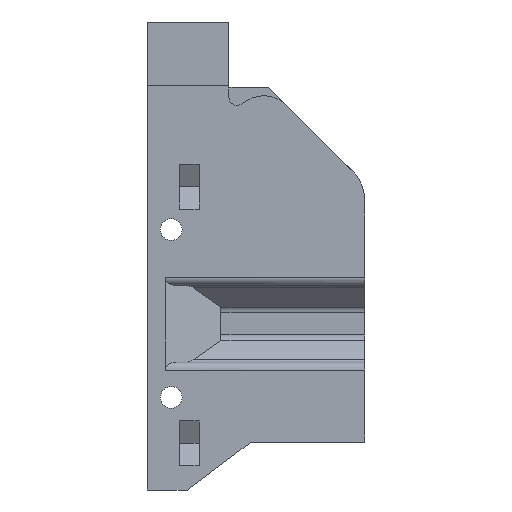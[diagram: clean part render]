
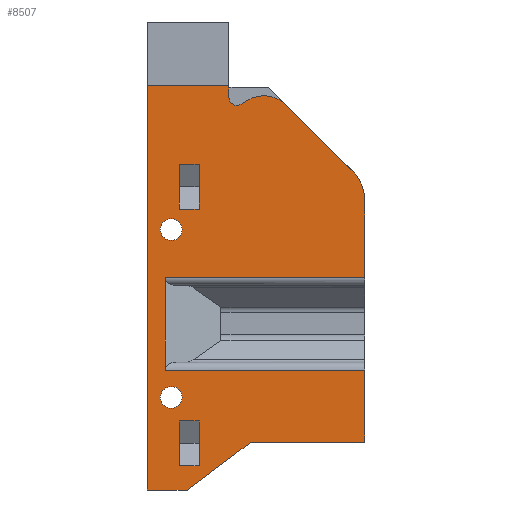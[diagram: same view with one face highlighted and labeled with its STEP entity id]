
A CAD part, left-side view. The second image highlights one B-rep face of the part: STEP entity #8507.
In plain terms, the highlighted planar face has unit normal (-1, 0, 0).
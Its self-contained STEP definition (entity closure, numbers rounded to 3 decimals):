
#69=CARTESIAN_POINT('Vertex',(-20.5,33.,-26.65)) ;
#72=CARTESIAN_POINT('Line Origine',(-20.5,40.111,-26.65)) ;
#76=CARTESIAN_POINT('Vertex',(-20.5,47.223,-26.65)) ;
#112=CARTESIAN_POINT('Line Origine',(-20.5,51.223,-29.65)) ;
#116=CARTESIAN_POINT('Vertex',(-20.5,55.223,-32.65)) ;
#149=CARTESIAN_POINT('Vertex',(-20.5,60.223,-32.65)) ;
#157=CARTESIAN_POINT('Line Origine',(-20.5,57.723,-32.65)) ;
#1476=CARTESIAN_POINT('Line Origine',(-20.5,60.223,-7.35)) ;
#1480=CARTESIAN_POINT('Vertex',(-20.5,60.223,17.95)) ;
#1983=CARTESIAN_POINT('Vertex',(-20.5,53.723,2.523)) ;
#1990=CARTESIAN_POINT('Vertex',(-20.5,56.223,2.523)) ;
#1993=CARTESIAN_POINT('Line Origine',(-20.5,54.973,2.523)) ;
#2005=CARTESIAN_POINT('Line Origine',(-20.5,56.223,5.323)) ;
#2009=CARTESIAN_POINT('Vertex',(-20.5,56.223,8.123)) ;
#2093=CARTESIAN_POINT('Vertex',(-20.5,53.723,8.123)) ;
#2122=CARTESIAN_POINT('Line Origine',(-20.5,53.723,5.323)) ;
#2143=CARTESIAN_POINT('Line Origine',(-20.5,54.973,8.123)) ;
#2252=CARTESIAN_POINT('Vertex',(-20.5,53.723,-29.608)) ;
#2259=CARTESIAN_POINT('Vertex',(-20.5,56.223,-29.608)) ;
#2262=CARTESIAN_POINT('Line Origine',(-20.5,54.973,-29.608)) ;
#2274=CARTESIAN_POINT('Line Origine',(-20.5,56.223,-26.808)) ;
#2278=CARTESIAN_POINT('Vertex',(-20.5,56.223,-24.008)) ;
#2362=CARTESIAN_POINT('Vertex',(-20.5,53.723,-24.008)) ;
#2391=CARTESIAN_POINT('Line Origine',(-20.5,53.723,-26.808)) ;
#2412=CARTESIAN_POINT('Line Origine',(-20.5,54.973,-24.008)) ;
#3099=CARTESIAN_POINT('Vertex',(-20.5,55.863,-21.05)) ;
#3102=CARTESIAN_POINT('Axis2P3D Location',(-20.5,57.223,-21.05)) ;
#3106=CARTESIAN_POINT('Vertex',(-20.5,58.583,-21.05)) ;
#3126=CARTESIAN_POINT('Axis2P3D Location',(-20.5,57.223,-21.05)) ;
#3151=CARTESIAN_POINT('Vertex',(-20.5,55.863,-0.05)) ;
#3154=CARTESIAN_POINT('Axis2P3D Location',(-20.5,57.223,-0.05)) ;
#3158=CARTESIAN_POINT('Vertex',(-20.5,58.583,-0.05)) ;
#3178=CARTESIAN_POINT('Axis2P3D Location',(-20.5,57.223,-0.05)) ;
#4014=CARTESIAN_POINT('Vertex',(-20.5,50.,17.95)) ;
#4017=CARTESIAN_POINT('Line Origine',(-20.5,55.111,17.95)) ;
#4284=CARTESIAN_POINT('Line Origine',(-20.5,50.,17.233)) ;
#4288=CARTESIAN_POINT('Vertex',(-20.5,50.,16.516)) ;
#4326=CARTESIAN_POINT('Axis2P3D Location',(-20.5,49.,16.516)) ;
#4330=CARTESIAN_POINT('Vertex',(-20.5,48.486,15.659)) ;
#6698=CARTESIAN_POINT('Line Origine',(-20.5,48.082,15.901)) ;
#6702=CARTESIAN_POINT('Vertex',(-20.5,47.678,16.143)) ;
#6729=CARTESIAN_POINT('Axis2P3D Location',(-20.5,45.62,12.713)) ;
#6733=CARTESIAN_POINT('Vertex',(-20.5,42.792,15.542)) ;
#7180=CARTESIAN_POINT('Vertex',(-20.5,34.464,7.214)) ;
#7188=CARTESIAN_POINT('Line Origine',(-20.5,38.628,11.378)) ;
#7211=CARTESIAN_POINT('Vertex',(-20.5,33.,3.679)) ;
#7214=CARTESIAN_POINT('Line Origine',(-20.5,33.,-1.186)) ;
#7218=CARTESIAN_POINT('Vertex',(-20.5,33.,-6.05)) ;
#7272=CARTESIAN_POINT('Vertex',(-20.5,33.,-17.65)) ;
#7275=CARTESIAN_POINT('Line Origine',(-20.5,33.,-22.15)) ;
#7322=CARTESIAN_POINT('Axis2P3D Location',(-20.5,38.,3.679)) ;
#8445=CARTESIAN_POINT('Axis2P3D Location',(-20.5,50.,1.95)) ;
#8450=CARTESIAN_POINT('Line Origine',(-20.5,58.,-11.85)) ;
#8454=CARTESIAN_POINT('Vertex',(-20.5,58.,-6.05)) ;
#8456=CARTESIAN_POINT('Vertex',(-20.5,58.,-17.65)) ;
#8459=CARTESIAN_POINT('Line Origine',(-20.5,45.5,-6.05)) ;
#8464=CARTESIAN_POINT('Line Origine',(-20.5,45.5,-17.65)) ;
#73=DIRECTION('Vector Direction',(0.,-1.,0.)) ;
#113=DIRECTION('Vector Direction',(0.,0.8,-0.6)) ;
#158=DIRECTION('Vector Direction',(0.,-1.,0.)) ;
#1477=DIRECTION('Vector Direction',(0.,0.,-1.)) ;
#1994=DIRECTION('Vector Direction',(0.,1.,0.)) ;
#2006=DIRECTION('Vector Direction',(0.,0.,-1.)) ;
#2123=DIRECTION('Vector Direction',(0.,0.,-1.)) ;
#2144=DIRECTION('Vector Direction',(0.,1.,0.)) ;
#2263=DIRECTION('Vector Direction',(0.,1.,0.)) ;
#2275=DIRECTION('Vector Direction',(0.,0.,-1.)) ;
#2392=DIRECTION('Vector Direction',(0.,0.,-1.)) ;
#2413=DIRECTION('Vector Direction',(0.,1.,0.)) ;
#3103=DIRECTION('Axis2P3D Direction',(1.,0.,-0.)) ;
#3127=DIRECTION('Axis2P3D Direction',(1.,0.,-0.)) ;
#3155=DIRECTION('Axis2P3D Direction',(1.,0.,-0.)) ;
#3179=DIRECTION('Axis2P3D Direction',(1.,0.,-0.)) ;
#4018=DIRECTION('Vector Direction',(0.,-1.,0.)) ;
#4285=DIRECTION('Vector Direction',(0.,0.,-1.)) ;
#4327=DIRECTION('Axis2P3D Direction',(1.,0.,0.)) ;
#6699=DIRECTION('Vector Direction',(0.,-0.857,0.514)) ;
#6730=DIRECTION('Axis2P3D Direction',(-1.,0.,0.)) ;
#7189=DIRECTION('Vector Direction',(0.,0.707,0.707)) ;
#7215=DIRECTION('Vector Direction',(0.,0.,1.)) ;
#7276=DIRECTION('Vector Direction',(0.,0.,1.)) ;
#7323=DIRECTION('Axis2P3D Direction',(-1.,0.,0.)) ;
#8446=DIRECTION('Axis2P3D Direction',(1.,0.,0.)) ;
#8447=DIRECTION('Axis2P3D XDirection',(0.,0.,1.)) ;
#8451=DIRECTION('Vector Direction',(0.,0.,-1.)) ;
#8460=DIRECTION('Vector Direction',(0.,1.,0.)) ;
#8465=DIRECTION('Vector Direction',(0.,1.,0.)) ;
#3104=AXIS2_PLACEMENT_3D('Circle Axis2P3D',#3102,#3103,$) ;
#3128=AXIS2_PLACEMENT_3D('Circle Axis2P3D',#3126,#3127,$) ;
#3156=AXIS2_PLACEMENT_3D('Circle Axis2P3D',#3154,#3155,$) ;
#3180=AXIS2_PLACEMENT_3D('Circle Axis2P3D',#3178,#3179,$) ;
#4328=AXIS2_PLACEMENT_3D('Circle Axis2P3D',#4326,#4327,$) ;
#6731=AXIS2_PLACEMENT_3D('Circle Axis2P3D',#6729,#6730,$) ;
#7324=AXIS2_PLACEMENT_3D('Circle Axis2P3D',#7322,#7323,$) ;
#8448=AXIS2_PLACEMENT_3D('Plane Axis2P3D',#8445,#8446,#8447) ;
#8470=ORIENTED_EDGE('',*,*,#8458,.F.) ;
#8471=ORIENTED_EDGE('',*,*,#8463,.T.) ;
#8472=ORIENTED_EDGE('',*,*,#7220,.T.) ;
#8473=ORIENTED_EDGE('',*,*,#7326,.F.) ;
#8474=ORIENTED_EDGE('',*,*,#7192,.T.) ;
#8475=ORIENTED_EDGE('',*,*,#6735,.F.) ;
#8476=ORIENTED_EDGE('',*,*,#6704,.F.) ;
#8477=ORIENTED_EDGE('',*,*,#4332,.T.) ;
#8478=ORIENTED_EDGE('',*,*,#4290,.F.) ;
#8479=ORIENTED_EDGE('',*,*,#4021,.F.) ;
#8480=ORIENTED_EDGE('',*,*,#1482,.T.) ;
#8481=ORIENTED_EDGE('',*,*,#161,.T.) ;
#8482=ORIENTED_EDGE('',*,*,#118,.F.) ;
#8483=ORIENTED_EDGE('',*,*,#78,.T.) ;
#8484=ORIENTED_EDGE('',*,*,#7279,.T.) ;
#8485=ORIENTED_EDGE('',*,*,#8468,.T.) ;
#8488=ORIENTED_EDGE('',*,*,#2011,.F.) ;
#8489=ORIENTED_EDGE('',*,*,#2147,.F.) ;
#8490=ORIENTED_EDGE('',*,*,#2126,.T.) ;
#8491=ORIENTED_EDGE('',*,*,#1997,.T.) ;
#8494=ORIENTED_EDGE('',*,*,#2280,.F.) ;
#8495=ORIENTED_EDGE('',*,*,#2416,.F.) ;
#8496=ORIENTED_EDGE('',*,*,#2395,.T.) ;
#8497=ORIENTED_EDGE('',*,*,#2266,.T.) ;
#8500=ORIENTED_EDGE('',*,*,#3130,.T.) ;
#8501=ORIENTED_EDGE('',*,*,#3108,.T.) ;
#8504=ORIENTED_EDGE('',*,*,#3182,.T.) ;
#8505=ORIENTED_EDGE('',*,*,#3160,.T.) ;
#8492=FACE_BOUND('',#8487,.T.) ;
#8498=FACE_BOUND('',#8493,.T.) ;
#8502=FACE_BOUND('',#8499,.T.) ;
#8506=FACE_BOUND('',#8503,.T.) ;
#74=VECTOR('Line Direction',#73,1.) ;
#114=VECTOR('Line Direction',#113,1.) ;
#159=VECTOR('Line Direction',#158,1.) ;
#1478=VECTOR('Line Direction',#1477,1.) ;
#1995=VECTOR('Line Direction',#1994,1.) ;
#2007=VECTOR('Line Direction',#2006,1.) ;
#2124=VECTOR('Line Direction',#2123,1.) ;
#2145=VECTOR('Line Direction',#2144,1.) ;
#2264=VECTOR('Line Direction',#2263,1.) ;
#2276=VECTOR('Line Direction',#2275,1.) ;
#2393=VECTOR('Line Direction',#2392,1.) ;
#2414=VECTOR('Line Direction',#2413,1.) ;
#4019=VECTOR('Line Direction',#4018,1.) ;
#4286=VECTOR('Line Direction',#4285,1.) ;
#6700=VECTOR('Line Direction',#6699,1.) ;
#7190=VECTOR('Line Direction',#7189,1.) ;
#7216=VECTOR('Line Direction',#7215,1.) ;
#7277=VECTOR('Line Direction',#7276,1.) ;
#8452=VECTOR('Line Direction',#8451,1.) ;
#8461=VECTOR('Line Direction',#8460,1.) ;
#8466=VECTOR('Line Direction',#8465,1.) ;
#8507=ADVANCED_FACE('Corps principal',(#8486,#8492,#8498,#8502,#8506),#8449,.F.) ;
#3105=CIRCLE('generated circle',#3104,1.36) ;
#3129=CIRCLE('generated circle',#3128,1.36) ;
#3157=CIRCLE('generated circle',#3156,1.36) ;
#3181=CIRCLE('generated circle',#3180,1.36) ;
#4329=CIRCLE('generated circle',#4328,1.) ;
#6732=CIRCLE('generated circle',#6731,4.) ;
#7325=CIRCLE('generated circle',#7324,5.) ;
#78=EDGE_CURVE('',#77,#70,#75,.T.) ;
#118=EDGE_CURVE('',#77,#117,#115,.T.) ;
#161=EDGE_CURVE('',#150,#117,#160,.T.) ;
#1482=EDGE_CURVE('',#1481,#150,#1479,.T.) ;
#1997=EDGE_CURVE('',#1984,#1991,#1996,.T.) ;
#2011=EDGE_CURVE('',#2010,#1991,#2008,.T.) ;
#2126=EDGE_CURVE('',#2094,#1984,#2125,.T.) ;
#2147=EDGE_CURVE('',#2094,#2010,#2146,.T.) ;
#2266=EDGE_CURVE('',#2253,#2260,#2265,.T.) ;
#2280=EDGE_CURVE('',#2279,#2260,#2277,.T.) ;
#2395=EDGE_CURVE('',#2363,#2253,#2394,.T.) ;
#2416=EDGE_CURVE('',#2363,#2279,#2415,.T.) ;
#3108=EDGE_CURVE('',#3107,#3100,#3105,.T.) ;
#3130=EDGE_CURVE('',#3100,#3107,#3129,.T.) ;
#3160=EDGE_CURVE('',#3159,#3152,#3157,.T.) ;
#3182=EDGE_CURVE('',#3152,#3159,#3181,.T.) ;
#4021=EDGE_CURVE('',#1481,#4015,#4020,.T.) ;
#4290=EDGE_CURVE('',#4015,#4289,#4287,.T.) ;
#4332=EDGE_CURVE('',#4331,#4289,#4329,.T.) ;
#6704=EDGE_CURVE('',#4331,#6703,#6701,.T.) ;
#6735=EDGE_CURVE('',#6703,#6734,#6732,.F.) ;
#7192=EDGE_CURVE('',#7181,#6734,#7191,.T.) ;
#7220=EDGE_CURVE('',#7219,#7212,#7217,.T.) ;
#7279=EDGE_CURVE('',#70,#7273,#7278,.T.) ;
#7326=EDGE_CURVE('',#7181,#7212,#7325,.F.) ;
#8458=EDGE_CURVE('',#8455,#8457,#8453,.T.) ;
#8463=EDGE_CURVE('',#8455,#7219,#8462,.F.) ;
#8468=EDGE_CURVE('',#7273,#8457,#8467,.T.) ;
#8469=EDGE_LOOP('',(#8470,#8471,#8472,#8473,#8474,#8475,#8476,#8477,#8478,#8479,#8480,#8481,#8482,#8483,#8484,#8485)) ;
#8487=EDGE_LOOP('',(#8488,#8489,#8490,#8491)) ;
#8493=EDGE_LOOP('',(#8494,#8495,#8496,#8497)) ;
#8499=EDGE_LOOP('',(#8500,#8501)) ;
#8503=EDGE_LOOP('',(#8504,#8505)) ;
#8486=FACE_OUTER_BOUND('',#8469,.T.) ;
#75=LINE('Line',#72,#74) ;
#115=LINE('Line',#112,#114) ;
#160=LINE('Line',#157,#159) ;
#1479=LINE('Line',#1476,#1478) ;
#1996=LINE('Line',#1993,#1995) ;
#2008=LINE('Line',#2005,#2007) ;
#2125=LINE('Line',#2122,#2124) ;
#2146=LINE('Line',#2143,#2145) ;
#2265=LINE('Line',#2262,#2264) ;
#2277=LINE('Line',#2274,#2276) ;
#2394=LINE('Line',#2391,#2393) ;
#2415=LINE('Line',#2412,#2414) ;
#4020=LINE('Line',#4017,#4019) ;
#4287=LINE('Line',#4284,#4286) ;
#6701=LINE('Line',#6698,#6700) ;
#7191=LINE('Line',#7188,#7190) ;
#7217=LINE('Line',#7214,#7216) ;
#7278=LINE('Line',#7275,#7277) ;
#8453=LINE('Line',#8450,#8452) ;
#8462=LINE('Line',#8459,#8461) ;
#8467=LINE('Line',#8464,#8466) ;
#8449=PLANE('',#8448) ;
#70=VERTEX_POINT('',#69) ;
#77=VERTEX_POINT('',#76) ;
#117=VERTEX_POINT('',#116) ;
#150=VERTEX_POINT('',#149) ;
#1481=VERTEX_POINT('',#1480) ;
#1984=VERTEX_POINT('',#1983) ;
#1991=VERTEX_POINT('',#1990) ;
#2010=VERTEX_POINT('',#2009) ;
#2094=VERTEX_POINT('',#2093) ;
#2253=VERTEX_POINT('',#2252) ;
#2260=VERTEX_POINT('',#2259) ;
#2279=VERTEX_POINT('',#2278) ;
#2363=VERTEX_POINT('',#2362) ;
#3100=VERTEX_POINT('',#3099) ;
#3107=VERTEX_POINT('',#3106) ;
#3152=VERTEX_POINT('',#3151) ;
#3159=VERTEX_POINT('',#3158) ;
#4015=VERTEX_POINT('',#4014) ;
#4289=VERTEX_POINT('',#4288) ;
#4331=VERTEX_POINT('',#4330) ;
#6703=VERTEX_POINT('',#6702) ;
#6734=VERTEX_POINT('',#6733) ;
#7181=VERTEX_POINT('',#7180) ;
#7212=VERTEX_POINT('',#7211) ;
#7219=VERTEX_POINT('',#7218) ;
#7273=VERTEX_POINT('',#7272) ;
#8455=VERTEX_POINT('',#8454) ;
#8457=VERTEX_POINT('',#8456) ;
